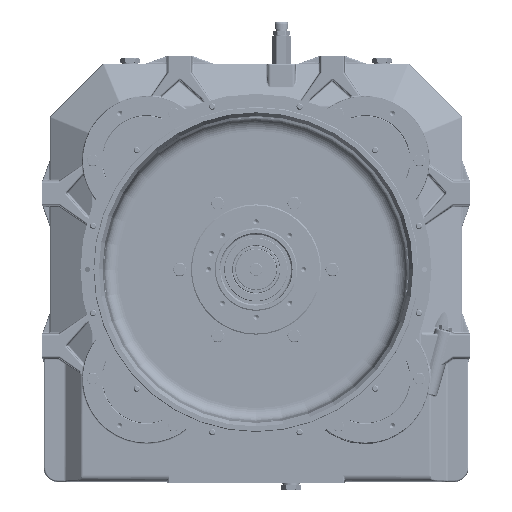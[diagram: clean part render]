
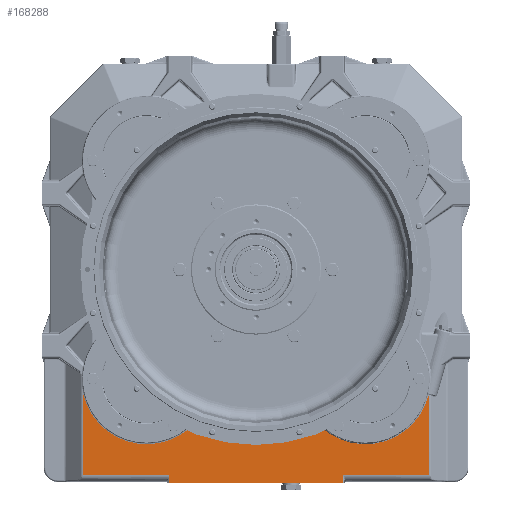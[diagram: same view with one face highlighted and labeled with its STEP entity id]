
A CAD part, top view. The second image highlights one B-rep face of the part: STEP entity #168288.
In plain terms, the highlighted planar face has unit normal (0, 0, 1).
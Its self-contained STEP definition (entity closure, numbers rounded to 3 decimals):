
#6178 = CARTESIAN_POINT ( 'NONE',  ( -75.431, -135.688, 62. ) ) ;
#6192 = DIRECTION ( 'NONE',  ( 1., 0., 0. ) ) ;
#6195 = DIRECTION ( 'NONE',  ( 0., 0., -1. ) ) ;
#6198 = CARTESIAN_POINT ( 'NONE',  ( -171.827, -171.827, 62. ) ) ;
#6200 = AXIS2_PLACEMENT_3D ( 'NONE', #6198, #6195, #6192 ) ;
#6201 = CIRCLE ( 'NONE', #6200, 102.948 ) ;
#7066 = CARTESIAN_POINT ( 'NONE',  ( -68.879, -171.827, 62. ) ) ;
#7359 = DIRECTION ( 'NONE',  ( 1., 0., 0. ) ) ;
#7361 = DIRECTION ( 'NONE',  ( 0., 0., 1. ) ) ;
#7363 = CARTESIAN_POINT ( 'NONE',  ( 65.082, -131.808, 62. ) ) ;
#7365 = AXIS2_PLACEMENT_3D ( 'NONE', #7363, #7361, #7359 ) ;
#7367 = CIRCLE ( 'NONE', #7365, 11.052 ) ;
#7450 = CARTESIAN_POINT ( 'NONE',  ( 60.189, -121.898, 62. ) ) ;
#7453 = CARTESIAN_POINT ( 'NONE',  ( 76.135, -131.808, 62. ) ) ;
#43676 = FACE_OUTER_BOUND ( 'NONE', #168290, .T. ) ;
#43746 = DIRECTION ( 'NONE',  ( 1., 0., 0. ) ) ;
#43749 = DIRECTION ( 'NONE',  ( 0., 0., 1. ) ) ;
#43750 = CARTESIAN_POINT ( 'NONE',  ( -336., -336., 62. ) ) ;
#43752 = AXIS2_PLACEMENT_3D ( 'NONE', #43750, #43749, #43746 ) ;
#43757 = PLANE ( 'NONE',  #43752 ) ;
#43829 = CARTESIAN_POINT ( 'NONE',  ( 136.119, -336., 62. ) ) ;
#43830 = CARTESIAN_POINT ( 'NONE',  ( -136.119, -336., 62. ) ) ;
#43832 = DIRECTION ( 'NONE',  ( 1., 0., 0. ) ) ;
#43833 = VECTOR ( 'NONE', #43832, 1000. ) ;
#43836 = CARTESIAN_POINT ( 'NONE',  ( -140., -336., 62. ) ) ;
#43838 = LINE ( 'NONE', #43836, #43833 ) ;
#43932 = CARTESIAN_POINT ( 'NONE',  ( 271.929, -336., 62. ) ) ;
#43933 = LINE ( 'NONE', #43932, #44082 ) ;
#44036 = CARTESIAN_POINT ( 'NONE',  ( 271.916, -197.111, 62. ) ) ;
#44048 = CARTESIAN_POINT ( 'NONE',  ( 271.916, -197.111, 62. ) ) ;
#44050 = CARTESIAN_POINT ( 'NONE',  ( 271.921, -197.112, 62. ) ) ;
#44051 = CARTESIAN_POINT ( 'NONE',  ( 271.925, -197.112, 62. ) ) ;
#44053 = CARTESIAN_POINT ( 'NONE',  ( 271.929, -197.113, 62. ) ) ;
#44056 = B_SPLINE_CURVE_WITH_KNOTS ( 'NONE', 3,
 ( #44053, #44051, #44050, #44048 ),
 .UNSPECIFIED., .F., .F.,
 ( 4, 4 ),
 ( 0., 0. ),
 .UNSPECIFIED. ) ;
#44076 = CARTESIAN_POINT ( 'NONE',  ( 271.929, -197.113, 62. ) ) ;
#44080 = DIRECTION ( 'NONE',  ( 0., 1., 0. ) ) ;
#44082 = VECTOR ( 'NONE', #44080, 1000. ) ;
#44367 = CARTESIAN_POINT ( 'NONE',  ( -60.189, -121.898, 62. ) ) ;
#44368 = DIRECTION ( 'NONE',  ( 1., 0., 0. ) ) ;
#44369 = DIRECTION ( 'NONE',  ( 0., 0., -1. ) ) ;
#44372 = CARTESIAN_POINT ( 'NONE',  ( 0., 0., 62. ) ) ;
#44373 = AXIS2_PLACEMENT_3D ( 'NONE', #44372, #44369, #44368 ) ;
#44375 = CIRCLE ( 'NONE', #44373, 135.948 ) ;
#44422 = DIRECTION ( 'NONE',  ( 1., 0., 0. ) ) ;
#44424 = DIRECTION ( 'NONE',  ( 0., 0., 1. ) ) ;
#44427 = AXIS2_PLACEMENT_3D ( 'NONE', #44437, #44424, #44422 ) ;
#44429 = CIRCLE ( 'NONE', #44427, 11.052 ) ;
#44437 = CARTESIAN_POINT ( 'NONE',  ( -65.082, -131.808, 62. ) ) ;
#44611 = DIRECTION ( 'NONE',  ( 0., -1., 0. ) ) ;
#44614 = VECTOR ( 'NONE', #44611, 1000. ) ;
#44617 = CARTESIAN_POINT ( 'NONE',  ( -136.119, -336., 62. ) ) ;
#44619 = LINE ( 'NONE', #44617, #44614 ) ;
#44628 = CARTESIAN_POINT ( 'NONE',  ( -136.119, -322.876, 62. ) ) ;
#44632 = CARTESIAN_POINT ( 'NONE',  ( 271.929, -322.876, 62. ) ) ;
#44641 = DIRECTION ( 'NONE',  ( 1., 0., 0. ) ) ;
#44642 = VECTOR ( 'NONE', #44641, 1000. ) ;
#44643 = CARTESIAN_POINT ( 'NONE',  ( -336., -322.876, 62. ) ) ;
#44644 = LINE ( 'NONE', #44643, #44642 ) ;
#44667 = CARTESIAN_POINT ( 'NONE',  ( 136.119, -322.876, 62. ) ) ;
#44680 = DIRECTION ( 'NONE',  ( 0., 1., 0. ) ) ;
#44681 = VECTOR ( 'NONE', #44680, 1000. ) ;
#44683 = CARTESIAN_POINT ( 'NONE',  ( 136.119, -322.876, 62. ) ) ;
#44685 = LINE ( 'NONE', #44683, #44681 ) ;
#44880 = CARTESIAN_POINT ( 'NONE',  ( 271.631, -197.072, 62. ) ) ;
#44906 = CARTESIAN_POINT ( 'NONE',  ( 271.631, -197.072, 62. ) ) ;
#44907 = CARTESIAN_POINT ( 'NONE',  ( 271.726, -197.086, 62. ) ) ;
#44908 = CARTESIAN_POINT ( 'NONE',  ( 271.821, -197.099, 62. ) ) ;
#44910 = CARTESIAN_POINT ( 'NONE',  ( 271.916, -197.111, 62. ) ) ;
#44914 = B_SPLINE_CURVE_WITH_KNOTS ( 'NONE', 3,
 ( #44910, #44908, #44907, #44906 ),
 .UNSPECIFIED., .F., .F.,
 ( 4, 4 ),
 ( 0., 0. ),
 .UNSPECIFIED. ) ;
#45015 = DIRECTION ( 'NONE',  ( 1., 0., 0. ) ) ;
#45018 = DIRECTION ( 'NONE',  ( 0., 0., 1. ) ) ;
#45020 = CARTESIAN_POINT ( 'NONE',  ( 65.082, -131.808, 62. ) ) ;
#45023 = AXIS2_PLACEMENT_3D ( 'NONE', #45020, #45018, #45015 ) ;
#45026 = CIRCLE ( 'NONE', #45023, 11.052 ) ;
#45049 = CARTESIAN_POINT ( 'NONE',  ( 75.431, -135.688, 62. ) ) ;
#45070 = DIRECTION ( 'NONE',  ( 1., 0., 0. ) ) ;
#45074 = DIRECTION ( 'NONE',  ( 0., 0., -1. ) ) ;
#45076 = CARTESIAN_POINT ( 'NONE',  ( 171.827, -171.827, 62. ) ) ;
#45078 = AXIS2_PLACEMENT_3D ( 'NONE', #45076, #45074, #45070 ) ;
#45080 = CIRCLE ( 'NONE', #45078, 102.948 ) ;
#45367 = CARTESIAN_POINT ( 'NONE',  ( -271.929, -195.864, 62. ) ) ;
#45370 = DIRECTION ( 'NONE',  ( 1., 0., 0. ) ) ;
#45372 = DIRECTION ( 'NONE',  ( 0., 0., -1. ) ) ;
#45374 = CARTESIAN_POINT ( 'NONE',  ( -171.827, -171.827, 62. ) ) ;
#45375 = AXIS2_PLACEMENT_3D ( 'NONE', #45374, #45372, #45370 ) ;
#45376 = CIRCLE ( 'NONE', #45375, 102.948 ) ;
#45485 = DIRECTION ( 'NONE',  ( 0., -1., 0. ) ) ;
#45487 = VECTOR ( 'NONE', #45485, 1000. ) ;
#45490 = CARTESIAN_POINT ( 'NONE',  ( -271.929, -322.876, 62. ) ) ;
#45496 = LINE ( 'NONE', #45490, #45487 ) ;
#45591 = DIRECTION ( 'NONE',  ( 1., 0., 0. ) ) ;
#45593 = VECTOR ( 'NONE', #45591, 1000. ) ;
#45594 = CARTESIAN_POINT ( 'NONE',  ( -336., -322.876, 62. ) ) ;
#45596 = LINE ( 'NONE', #45594, #45593 ) ;
#45601 = CARTESIAN_POINT ( 'NONE',  ( -271.929, -322.876, 62. ) ) ;
#157096 = EDGE_CURVE ( 'NONE', #157104, #157306, #6201, .T. ) ;
#157104 = VERTEX_POINT ( 'NONE', #6178 ) ;
#157306 = VERTEX_POINT ( 'NONE', #7066 ) ;
#157374 = EDGE_CURVE ( 'NONE', #157383, #157386, #7367, .T. ) ;
#157383 = VERTEX_POINT ( 'NONE', #7453 ) ;
#157386 = VERTEX_POINT ( 'NONE', #7450 ) ;
#168288 = ADVANCED_FACE ( 'NONE', ( #43676 ), #43757, .T. ) ;
#168290 = EDGE_LOOP ( 'NONE', ( #168302, #168524, #168542, #168369, #168395, #168416, #168619, #168637, #168482, #168491, #168508, #168695, #168701, #168723, #168748, #168574 ) ) ;
#168302 = ORIENTED_EDGE ( 'NONE', *, *, #168304, .T. ) ;
#168304 = EDGE_CURVE ( 'NONE', #168306, #168311, #43838, .T. ) ;
#168306 = VERTEX_POINT ( 'NONE', #43830 ) ;
#168311 = VERTEX_POINT ( 'NONE', #43829 ) ;
#168369 = ORIENTED_EDGE ( 'NONE', *, *, #168374, .T. ) ;
#168374 = EDGE_CURVE ( 'NONE', #168555, #168382, #43933, .T. ) ;
#168382 = VERTEX_POINT ( 'NONE', #44076 ) ;
#168395 = ORIENTED_EDGE ( 'NONE', *, *, #168400, .T. ) ;
#168400 = EDGE_CURVE ( 'NONE', #168382, #168407, #44056, .T. ) ;
#168407 = VERTEX_POINT ( 'NONE', #44036 ) ;
#168416 = ORIENTED_EDGE ( 'NONE', *, *, #168610, .T. ) ;
#168482 = ORIENTED_EDGE ( 'NONE', *, *, #157374, .T. ) ;
#168491 = ORIENTED_EDGE ( 'NONE', *, *, #168497, .T. ) ;
#168497 = EDGE_CURVE ( 'NONE', #157386, #168502, #44375, .T. ) ;
#168502 = VERTEX_POINT ( 'NONE', #44367 ) ;
#168508 = ORIENTED_EDGE ( 'NONE', *, *, #168514, .T. ) ;
#168514 = EDGE_CURVE ( 'NONE', #168502, #157104, #44429, .T. ) ;
#168524 = ORIENTED_EDGE ( 'NONE', *, *, #168533, .T. ) ;
#168533 = EDGE_CURVE ( 'NONE', #168311, #168538, #44685, .T. ) ;
#168538 = VERTEX_POINT ( 'NONE', #44667 ) ;
#168542 = ORIENTED_EDGE ( 'NONE', *, *, #168551, .T. ) ;
#168551 = EDGE_CURVE ( 'NONE', #168538, #168555, #44644, .T. ) ;
#168555 = VERTEX_POINT ( 'NONE', #44632 ) ;
#168565 = VERTEX_POINT ( 'NONE', #44628 ) ;
#168574 = ORIENTED_EDGE ( 'NONE', *, *, #168577, .T. ) ;
#168577 = EDGE_CURVE ( 'NONE', #168565, #168306, #44619, .T. ) ;
#168610 = EDGE_CURVE ( 'NONE', #168407, #168617, #44914, .T. ) ;
#168617 = VERTEX_POINT ( 'NONE', #44880 ) ;
#168619 = ORIENTED_EDGE ( 'NONE', *, *, #168623, .T. ) ;
#168623 = EDGE_CURVE ( 'NONE', #168617, #168629, #45080, .T. ) ;
#168629 = VERTEX_POINT ( 'NONE', #45049 ) ;
#168637 = ORIENTED_EDGE ( 'NONE', *, *, #168644, .T. ) ;
#168644 = EDGE_CURVE ( 'NONE', #168629, #157383, #45026, .T. ) ;
#168695 = ORIENTED_EDGE ( 'NONE', *, *, #157096, .T. ) ;
#168701 = ORIENTED_EDGE ( 'NONE', *, *, #168707, .T. ) ;
#168707 = EDGE_CURVE ( 'NONE', #157306, #168713, #45376, .T. ) ;
#168713 = VERTEX_POINT ( 'NONE', #45367 ) ;
#168723 = ORIENTED_EDGE ( 'NONE', *, *, #168734, .T. ) ;
#168734 = EDGE_CURVE ( 'NONE', #168713, #168744, #45496, .T. ) ;
#168744 = VERTEX_POINT ( 'NONE', #45601 ) ;
#168748 = ORIENTED_EDGE ( 'NONE', *, *, #168753, .T. ) ;
#168753 = EDGE_CURVE ( 'NONE', #168744, #168565, #45596, .T. ) ;
